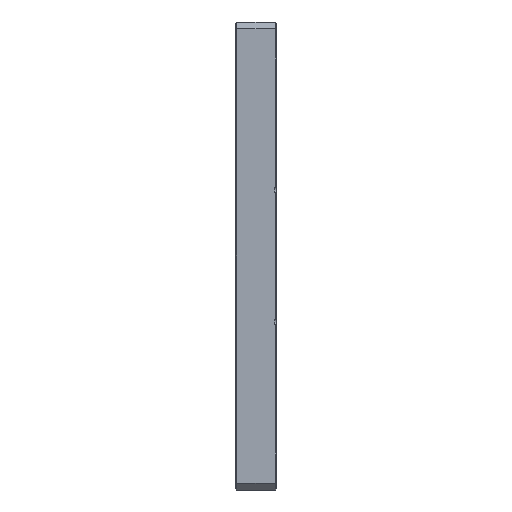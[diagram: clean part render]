
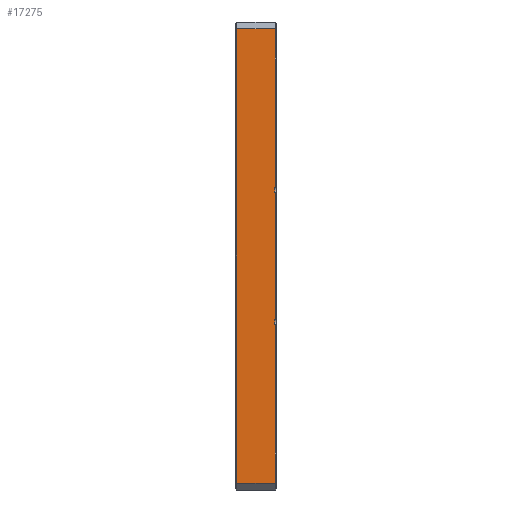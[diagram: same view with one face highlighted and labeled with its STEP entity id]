
A CAD part, left-side view. The second image highlights one B-rep face of the part: STEP entity #17275.
In plain terms, the highlighted planar face has unit normal (-1, 0, 0).
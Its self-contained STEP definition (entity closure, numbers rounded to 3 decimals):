
#4543=DIRECTION('',(0.,0.,-1.));
#4544=VECTOR('',#4543,3.5);
#4545=CARTESIAN_POINT('',(-77.5,1.2,145.75));
#4546=LINE('',#4545,#4544);
#4547=DIRECTION('',(0.,1.,0.));
#4548=VECTOR('',#4547,0.2);
#4549=CARTESIAN_POINT('',(-77.5,1.,142.25));
#4550=LINE('',#4549,#4548);
#4551=DIRECTION('',(0.,0.,1.));
#4552=VECTOR('',#4551,92.5);
#4553=CARTESIAN_POINT('',(-77.5,1.,49.75));
#4554=LINE('',#4553,#4552);
#4555=DIRECTION('',(0.,1.,0.));
#4556=VECTOR('',#4555,0.2);
#4557=CARTESIAN_POINT('',(-77.5,1.,49.75));
#4558=LINE('',#4557,#4556);
#4559=DIRECTION('',(0.,0.,-1.));
#4560=VECTOR('',#4559,3.5);
#4561=CARTESIAN_POINT('',(-77.5,1.2,49.75));
#4562=LINE('',#4561,#4560);
#4563=DIRECTION('',(0.,1.,0.));
#4564=VECTOR('',#4563,0.2);
#4565=CARTESIAN_POINT('',(-77.5,1.,46.25));
#4566=LINE('',#4565,#4564);
#4567=DIRECTION('',(0.,0.,1.));
#4568=VECTOR('',#4567,115.25);
#4569=CARTESIAN_POINT('',(-77.5,1.,-69.));
#4570=LINE('',#4569,#4568);
#4571=DIRECTION('',(0.,-1.,0.));
#4572=VECTOR('',#4571,28.);
#4573=CARTESIAN_POINT('',(-77.5,29.,-69.));
#4574=LINE('',#4573,#4572);
#4575=DIRECTION('',(0.,0.,1.));
#4576=VECTOR('',#4575,330.);
#4577=CARTESIAN_POINT('',(-77.5,29.,-69.));
#4578=LINE('',#4577,#4576);
#4579=DIRECTION('',(0.,1.,0.));
#4580=VECTOR('',#4579,28.);
#4581=CARTESIAN_POINT('',(-77.5,1.,261.));
#4582=LINE('',#4581,#4580);
#4583=DIRECTION('',(0.,0.,1.));
#4584=VECTOR('',#4583,115.25);
#4585=CARTESIAN_POINT('',(-77.5,1.,145.75));
#4586=LINE('',#4585,#4584);
#4587=DIRECTION('',(0.,1.,0.));
#4588=VECTOR('',#4587,0.2);
#4589=CARTESIAN_POINT('',(-77.5,1.,145.75));
#4590=LINE('',#4589,#4588);
#11133=CARTESIAN_POINT('',(-77.5,29.,261.));
#11135=VERTEX_POINT('',#11133);
#11136=CARTESIAN_POINT('',(-77.5,29.,-69.));
#11137=VERTEX_POINT('',#11136);
#11156=CARTESIAN_POINT('',(-77.5,1.,261.));
#11158=VERTEX_POINT('',#11156);
#11166=CARTESIAN_POINT('',(-77.5,1.,-69.));
#11167=VERTEX_POINT('',#11166);
#12852=CARTESIAN_POINT('',(-77.5,1.2,145.75));
#12853=CARTESIAN_POINT('',(-77.5,1.2,142.25));
#12854=VERTEX_POINT('',#12852);
#12855=VERTEX_POINT('',#12853);
#12856=CARTESIAN_POINT('',(-77.5,1.2,49.75));
#12857=CARTESIAN_POINT('',(-77.5,1.2,46.25));
#12858=VERTEX_POINT('',#12856);
#12859=VERTEX_POINT('',#12857);
#12860=CARTESIAN_POINT('',(-77.5,1.,46.25));
#12861=VERTEX_POINT('',#12860);
#12862=CARTESIAN_POINT('',(-77.5,1.,49.75));
#12863=VERTEX_POINT('',#12862);
#12864=CARTESIAN_POINT('',(-77.5,1.,142.25));
#12865=VERTEX_POINT('',#12864);
#12866=CARTESIAN_POINT('',(-77.5,1.,145.75));
#12867=VERTEX_POINT('',#12866);
#17248=CARTESIAN_POINT('',(-77.5,30.,77.5));
#17249=DIRECTION('',(1.,0.,0.));
#17250=DIRECTION('',(0.,0.,-1.));
#17251=AXIS2_PLACEMENT_3D('',#17248,#17249,#17250);
#17252=PLANE('',#17251);
#17253=ORIENTED_EDGE('',*,*,#14967,.T.);
#17255=ORIENTED_EDGE('',*,*,#17254,.F.);
#17257=ORIENTED_EDGE('',*,*,#17256,.F.);
#17259=ORIENTED_EDGE('',*,*,#17258,.T.);
#17260=ORIENTED_EDGE('',*,*,#15003,.T.);
#17262=ORIENTED_EDGE('',*,*,#17261,.F.);
#17264=ORIENTED_EDGE('',*,*,#17263,.F.);
#17266=ORIENTED_EDGE('',*,*,#17265,.F.);
#17267=ORIENTED_EDGE('',*,*,#17240,.T.);
#17268=ORIENTED_EDGE('',*,*,#17215,.F.);
#17270=ORIENTED_EDGE('',*,*,#17269,.F.);
#17272=ORIENTED_EDGE('',*,*,#17271,.T.);
#17273=EDGE_LOOP('',(#17253,#17255,#17257,#17259,#17260,#17262,#17264,#17266,
#17267,#17268,#17270,#17272));
#17274=FACE_OUTER_BOUND('',#17273,.F.);
#17275=ADVANCED_FACE('',(#17274),#17252,.F.);
#14967=EDGE_CURVE('',#12854,#12855,#4546,.T.);
#15003=EDGE_CURVE('',#12858,#12859,#4562,.T.);
#17215=EDGE_CURVE('',#11158,#11135,#4582,.T.);
#17240=EDGE_CURVE('',#11137,#11135,#4578,.T.);
#17254=EDGE_CURVE('',#12865,#12855,#4550,.T.);
#17256=EDGE_CURVE('',#12863,#12865,#4554,.T.);
#17258=EDGE_CURVE('',#12863,#12858,#4558,.T.);
#17261=EDGE_CURVE('',#12861,#12859,#4566,.T.);
#17263=EDGE_CURVE('',#11167,#12861,#4570,.T.);
#17265=EDGE_CURVE('',#11137,#11167,#4574,.T.);
#17269=EDGE_CURVE('',#12867,#11158,#4586,.T.);
#17271=EDGE_CURVE('',#12867,#12854,#4590,.T.);
